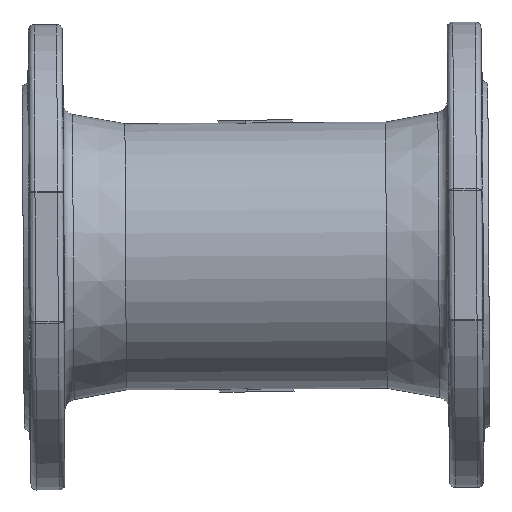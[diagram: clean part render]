
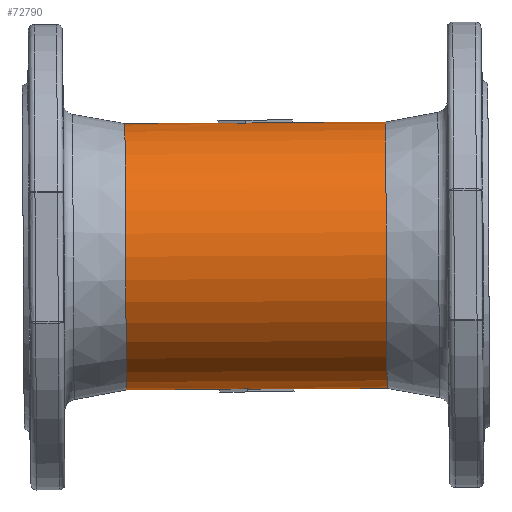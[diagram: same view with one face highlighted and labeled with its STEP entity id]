
A CAD part, front view. The second image highlights one B-rep face of the part: STEP entity #72790.
In plain terms, the highlighted cylindrical face has radius 71.5 mm (diameter 143 mm), a partial arc.
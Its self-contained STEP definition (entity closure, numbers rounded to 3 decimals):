
#123 = ORIENTED_EDGE ( 'NONE', *, *, #36053, .F. ) ;
#386 = CARTESIAN_POINT ( 'NONE',  ( 92.874, 86.183, 68.777 ) ) ;
#884 =( BOUNDED_CURVE ( )  B_SPLINE_CURVE ( 3, ( #35783, #34650, #28846, #71095 ),
 .UNSPECIFIED., .F., .T. ) 
 B_SPLINE_CURVE_WITH_KNOTS ( ( 4, 4 ),
 ( 4.712, 4.81 ),
 .UNSPECIFIED. ) 
 CURVE ( )  GEOMETRIC_REPRESENTATION_ITEM ( )  RATIONAL_B_SPLINE_CURVE ( ( 1., 0.999, 0.999, 1. ) ) 
 REPRESENTATION_ITEM ( '' )  );
#1231 = LINE ( 'NONE', #8149, #10733 ) ;
#2388 = AXIS2_PLACEMENT_3D ( 'NONE', #71227, #31604, #68424 ) ;
#4492 = DIRECTION ( 'NONE',  ( 1., 0., 0.006 ) ) ;
#5098 = VERTEX_POINT ( 'NONE', #23847 ) ;
#5486 = VERTEX_POINT ( 'NONE', #12089 ) ;
#5774 = CIRCLE ( 'NONE', #68853, 71.5 ) ;
#7302 = DIRECTION ( 'NONE',  ( 0.006, 0., -1. ) ) ;
#8149 = CARTESIAN_POINT ( 'NONE',  ( 288.672, 86.183, -73.128 ) ) ;
#8814 = DIRECTION ( 'NONE',  ( 1., 0., 0.006 ) ) ;
#9059 = VERTEX_POINT ( 'NONE', #9780 ) ;
#9780 = CARTESIAN_POINT ( 'NONE',  ( 158.673, 83.183, -73.793 ) ) ;
#10241 = EDGE_CURVE ( 'NONE', #75978, #12685, #65131, .T. ) ;
#10447 = EDGE_CURVE ( 'NONE', #67271, #75000, #57348, .T. ) ;
#10733 = VECTOR ( 'NONE', #30983, 1000. ) ;
#11146 = EDGE_CURVE ( 'NONE', #67271, #9059, #23924, .T. ) ;
#11483 = ORIENTED_EDGE ( 'NONE', *, *, #56331, .F. ) ;
#11994 = AXIS2_PLACEMENT_3D ( 'NONE', #61963, #74023, #39423 ) ;
#12089 = CARTESIAN_POINT ( 'NONE',  ( 233.673, 86.183, -73.436 ) ) ;
#12465 = EDGE_CURVE ( 'NONE', #28633, #73092, #38102, .T. ) ;
#12685 = VERTEX_POINT ( 'NONE', #66753 ) ;
#14066 = CARTESIAN_POINT ( 'NONE',  ( 183.273, 86.183, -2.217 ) ) ;
#15061 = ORIENTED_EDGE ( 'NONE', *, *, #10447, .T. ) ;
#15418 = CYLINDRICAL_SURFACE ( 'NONE', #11994, 71.5 ) ;
#15485 = CARTESIAN_POINT ( 'NONE',  ( 143.674, 86.183, -73.94 ) ) ;
#15954 = VERTEX_POINT ( 'NONE', #386 ) ;
#17163 = DIRECTION ( 'NONE',  ( 1., 0., 0.006 ) ) ;
#17611 = VECTOR ( 'NONE', #34157, 1000. ) ;
#17767 = VECTOR ( 'NONE', #17163, 1000. ) ;
#19277 = ORIENTED_EDGE ( 'NONE', *, *, #40715, .T. ) ;
#20328 = CARTESIAN_POINT ( 'NONE',  ( 287.871, 83.183, 69.807 ) ) ;
#20411 = CARTESIAN_POINT ( 'NONE',  ( 157.873, 83.183, 69.079 ) ) ;
#20575 = ORIENTED_EDGE ( 'NONE', *, *, #49766, .F. ) ;
#21742 = EDGE_CURVE ( 'NONE', #15954, #5098, #22577, .T. ) ;
#21829 = ORIENTED_EDGE ( 'NONE', *, *, #28492, .F. ) ;
#22207 = EDGE_CURVE ( 'NONE', #12685, #9059, #76124, .T. ) ;
#22412 = ORIENTED_EDGE ( 'NONE', *, *, #12465, .T. ) ;
#22577 = LINE ( 'NONE', #35703, #17767 ) ;
#23847 = CARTESIAN_POINT ( 'NONE',  ( 142.873, 86.183, 69.058 ) ) ;
#23924 = LINE ( 'NONE', #46833, #68614 ) ;
#24342 = EDGE_CURVE ( 'NONE', #15954, #73840, #5774, .T. ) ;
#25166 = CARTESIAN_POINT ( 'NONE',  ( 157.874, 79.189, 68.799 ) ) ;
#25403 = LINE ( 'NONE', #49079, #38569 ) ;
#26203 = EDGE_CURVE ( 'NONE', #73840, #75978, #1231, .T. ) ;
#26885 = CARTESIAN_POINT ( 'NONE',  ( 93.675, 86.183, -74.22 ) ) ;
#27567 = DIRECTION ( 'NONE',  ( -1., 0., -0.006 ) ) ;
#28267 = ORIENTED_EDGE ( 'NONE', *, *, #22207, .T. ) ;
#28492 = EDGE_CURVE ( 'NONE', #28633, #64478, #74201, .T. ) ;
#28497 = DIRECTION ( 'NONE',  ( 0.006, 0., -1. ) ) ;
#28633 = VERTEX_POINT ( 'NONE', #28771 ) ;
#28771 = CARTESIAN_POINT ( 'NONE',  ( 182.873, 83.183, 69.219 ) ) ;
#28846 = CARTESIAN_POINT ( 'NONE',  ( 152.887, 81.514, 68.999 ) ) ;
#30123 = VECTOR ( 'NONE', #74607, 1000. ) ;
#30558 = CARTESIAN_POINT ( 'NONE',  ( 232.871, 86.183, 69.562 ) ) ;
#30918 = FACE_OUTER_BOUND ( 'NONE', #55176, .T. ) ;
#30983 = DIRECTION ( 'NONE',  ( 1., 0., 0.006 ) ) ;
#31604 = DIRECTION ( 'NONE',  ( 1., 0., 0.006 ) ) ;
#33260 = AXIS2_PLACEMENT_3D ( 'NONE', #14066, #48604, #37294 ) ;
#34157 = DIRECTION ( 'NONE',  ( 1., 0., 0.006 ) ) ;
#34650 = CARTESIAN_POINT ( 'NONE',  ( 147.883, 83.847, 69.086 ) ) ;
#35636 = CARTESIAN_POINT ( 'NONE',  ( 183.673, 83.183, -73.653 ) ) ;
#35703 = CARTESIAN_POINT ( 'NONE',  ( 287.871, 86.183, 69.87 ) ) ;
#35783 = CARTESIAN_POINT ( 'NONE',  ( 142.873, 86.183, 69.058 ) ) ;
#36053 = EDGE_CURVE ( 'NONE', #73409, #5486, #70394, .T. ) ;
#37294 = DIRECTION ( 'NONE',  ( -0.006, 0., 1. ) ) ;
#37655 = AXIS2_PLACEMENT_3D ( 'NONE', #57400, #27567, #51225 ) ;
#38102 = LINE ( 'NONE', #20328, #30123 ) ;
#38569 = VECTOR ( 'NONE', #62889, 1000. ) ;
#39423 = DIRECTION ( 'NONE',  ( 0.006, 0., -1. ) ) ;
#40157 = CIRCLE ( 'NONE', #37655, 71.5 ) ;
#40715 = EDGE_CURVE ( 'NONE', #75000, #5486, #25403, .T. ) ;
#40871 = EDGE_CURVE ( 'NONE', #64478, #73409, #57849, .T. ) ;
#43274 = ORIENTED_EDGE ( 'NONE', *, *, #21742, .F. ) ;
#44228 = CARTESIAN_POINT ( 'NONE',  ( 183.673, 86.183, -73.716 ) ) ;
#44247 = ORIENTED_EDGE ( 'NONE', *, *, #26203, .T. ) ;
#45922 = DIRECTION ( 'NONE',  ( 1., 0., 0.006 ) ) ;
#46833 = CARTESIAN_POINT ( 'NONE',  ( 288.671, 83.183, -73.065 ) ) ;
#47086 = ORIENTED_EDGE ( 'NONE', *, *, #10241, .T. ) ;
#47207 = DIRECTION ( 'NONE',  ( -1., 0., -0.006 ) ) ;
#48604 = DIRECTION ( 'NONE',  ( -1., 0., -0.006 ) ) ;
#48818 = AXIS2_PLACEMENT_3D ( 'NONE', #62608, #4492, #28497 ) ;
#49079 = CARTESIAN_POINT ( 'NONE',  ( 288.672, 86.183, -73.128 ) ) ;
#49766 = EDGE_CURVE ( 'NONE', #5098, #56565, #884, .T. ) ;
#50167 = ORIENTED_EDGE ( 'NONE', *, *, #11146, .F. ) ;
#51225 = DIRECTION ( 'NONE',  ( -0.006, 0., 1. ) ) ;
#52804 = CARTESIAN_POINT ( 'NONE',  ( 287.871, 86.183, 69.87 ) ) ;
#55176 = EDGE_LOOP ( 'NONE', ( #43274, #67383, #44247, #47086, #28267, #50167, #15061, #19277, #123, #69126, #21829, #22412, #11483, #20575 ) ) ;
#56135 = AXIS2_PLACEMENT_3D ( 'NONE', #61938, #8814, #7302 ) ;
#56331 = EDGE_CURVE ( 'NONE', #56565, #73092, #40157, .T. ) ;
#56565 = VERTEX_POINT ( 'NONE', #25166 ) ;
#56590 = CARTESIAN_POINT ( 'NONE',  ( 148.684, 83.847, -73.912 ) ) ;
#57348 = CIRCLE ( 'NONE', #56135, 71.5 ) ;
#57400 = CARTESIAN_POINT ( 'NONE',  ( 158.273, 86.183, -2.357 ) ) ;
#57849 = LINE ( 'NONE', #52804, #17611 ) ;
#61938 = CARTESIAN_POINT ( 'NONE',  ( 183.273, 86.183, -2.217 ) ) ;
#61963 = CARTESIAN_POINT ( 'NONE',  ( 288.271, 86.183, -1.629 ) ) ;
#62608 = CARTESIAN_POINT ( 'NONE',  ( 158.273, 86.183, -2.357 ) ) ;
#62789 = CARTESIAN_POINT ( 'NONE',  ( 153.687, 81.514, -73.77 ) ) ;
#62889 = DIRECTION ( 'NONE',  ( 1., 0., 0.006 ) ) ;
#63011 = CARTESIAN_POINT ( 'NONE',  ( 182.872, 86.183, 69.282 ) ) ;
#63941 = CARTESIAN_POINT ( 'NONE',  ( 158.672, 79.189, -73.513 ) ) ;
#63998 = CARTESIAN_POINT ( 'NONE',  ( 143.674, 86.183, -73.94 ) ) ;
#64137 = DIRECTION ( 'NONE',  ( 0.006, 0., -1. ) ) ;
#64478 = VERTEX_POINT ( 'NONE', #63011 ) ;
#65131 =( BOUNDED_CURVE ( )  B_SPLINE_CURVE ( 3, ( #15485, #56590, #62789, #63941 ),
 .UNSPECIFIED., .F., .T. ) 
 B_SPLINE_CURVE_WITH_KNOTS ( ( 4, 4 ),
 ( 4.712, 4.81 ),
 .UNSPECIFIED. ) 
 CURVE ( )  GEOMETRIC_REPRESENTATION_ITEM ( )  RATIONAL_B_SPLINE_CURVE ( ( 1., 0.999, 0.999, 1. ) ) 
 REPRESENTATION_ITEM ( '' )  );
#66753 = CARTESIAN_POINT ( 'NONE',  ( 158.672, 79.189, -73.513 ) ) ;
#67271 = VERTEX_POINT ( 'NONE', #35636 ) ;
#67383 = ORIENTED_EDGE ( 'NONE', *, *, #24342, .T. ) ;
#68424 = DIRECTION ( 'NONE',  ( 0.006, 0., -1. ) ) ;
#68614 = VECTOR ( 'NONE', #47207, 1000. ) ;
#68853 = AXIS2_PLACEMENT_3D ( 'NONE', #75439, #45922, #64137 ) ;
#69126 = ORIENTED_EDGE ( 'NONE', *, *, #40871, .F. ) ;
#70394 = CIRCLE ( 'NONE', #2388, 71.5 ) ;
#71095 = CARTESIAN_POINT ( 'NONE',  ( 157.874, 79.189, 68.799 ) ) ;
#71227 = CARTESIAN_POINT ( 'NONE',  ( 233.272, 86.183, -1.937 ) ) ;
#72790 = ADVANCED_FACE ( 'NONE', ( #30918 ), #15418, .T. ) ;
#73092 = VERTEX_POINT ( 'NONE', #20411 ) ;
#73409 = VERTEX_POINT ( 'NONE', #30558 ) ;
#73840 = VERTEX_POINT ( 'NONE', #26885 ) ;
#74023 = DIRECTION ( 'NONE',  ( 1., 0., 0.006 ) ) ;
#74201 = CIRCLE ( 'NONE', #33260, 71.5 ) ;
#74607 = DIRECTION ( 'NONE',  ( -1., 0., -0.006 ) ) ;
#75000 = VERTEX_POINT ( 'NONE', #44228 ) ;
#75439 = CARTESIAN_POINT ( 'NONE',  ( 93.274, 86.183, -2.721 ) ) ;
#75978 = VERTEX_POINT ( 'NONE', #63998 ) ;
#76124 = CIRCLE ( 'NONE', #48818, 71.5 ) ;
